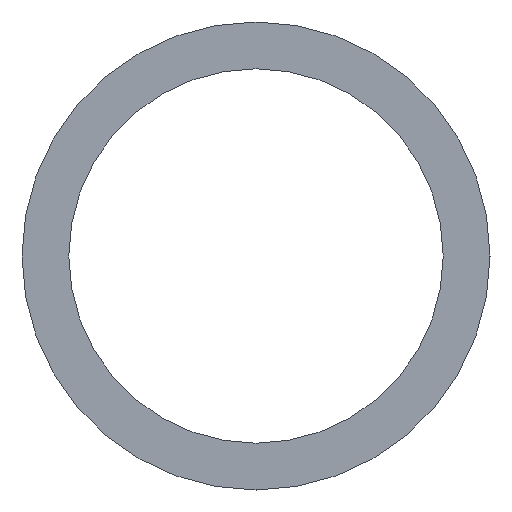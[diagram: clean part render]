
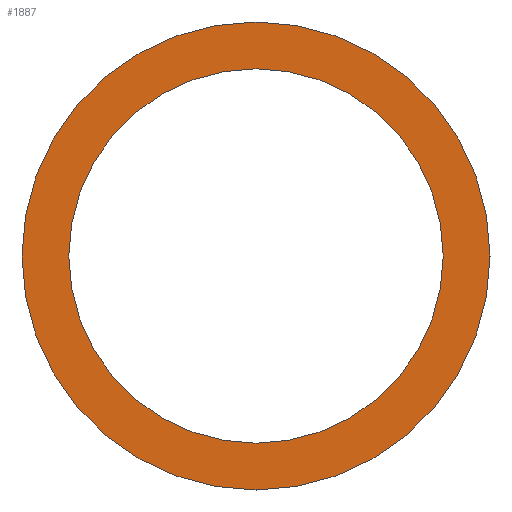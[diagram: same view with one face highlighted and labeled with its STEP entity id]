
A CAD part, front view. The second image highlights one B-rep face of the part: STEP entity #1887.
In plain terms, the highlighted planar face has unit normal (0, -1, 0).
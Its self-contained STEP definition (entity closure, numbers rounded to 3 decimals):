
#84 = AXIS2_PLACEMENT_3D ( 'NONE', #4474, #3580, #7204 ) ;
#112 = VERTEX_POINT ( 'NONE', #6012 ) ;
#1664 = DIRECTION ( 'NONE',  ( 0., 0., -1. ) ) ;
#1887 = ADVANCED_FACE ( 'NONE', ( #8138, #5914 ), #3932, .F. ) ;
#1971 = DIRECTION ( 'NONE',  ( 0., 1., 0. ) ) ;
#2016 = CARTESIAN_POINT ( 'NONE',  ( 0., -50.5, 0. ) ) ;
#2141 = DIRECTION ( 'NONE',  ( 0., 0., -1. ) ) ;
#2707 = VERTEX_POINT ( 'NONE', #3589 ) ;
#3413 = DIRECTION ( 'NONE',  ( 0., -1., 0. ) ) ;
#3580 = DIRECTION ( 'NONE',  ( 0., -1., 0. ) ) ;
#3589 = CARTESIAN_POINT ( 'NONE',  ( 0., -50.5, -170. ) ) ;
#3932 = PLANE ( 'NONE',  #7570 ) ;
#4014 = VERTEX_POINT ( 'NONE', #7848 ) ;
#4015 = EDGE_LOOP ( 'NONE', ( #7064, #6074 ) ) ;
#4047 = CIRCLE ( 'NONE', #8606, 212.5 ) ;
#4435 = VERTEX_POINT ( 'NONE', #7069 ) ;
#4474 = CARTESIAN_POINT ( 'NONE',  ( 0., -50.5, 0. ) ) ;
#5068 = CIRCLE ( 'NONE', #8201, 170. ) ;
#5093 = CIRCLE ( 'NONE', #8589, 170. ) ;
#5181 = DIRECTION ( 'NONE',  ( 0., -1., 0. ) ) ;
#5500 = EDGE_CURVE ( 'NONE', #112, #2707, #5093, .T. ) ;
#5722 = EDGE_CURVE ( 'NONE', #4014, #4435, #6289, .T. ) ;
#5813 = ORIENTED_EDGE ( 'NONE', *, *, #7313, .T. ) ;
#5914 = FACE_OUTER_BOUND ( 'NONE', #6553, .T. ) ;
#6012 = CARTESIAN_POINT ( 'NONE',  ( 0., -50.5, 170. ) ) ;
#6074 = ORIENTED_EDGE ( 'NONE', *, *, #5500, .F. ) ;
#6289 = CIRCLE ( 'NONE', #84, 212.5 ) ;
#6315 = DIRECTION ( 'NONE',  ( 0., -1., 0. ) ) ;
#6553 = EDGE_LOOP ( 'NONE', ( #8017, #5813 ) ) ;
#6643 = EDGE_CURVE ( 'NONE', #2707, #112, #5068, .T. ) ;
#7064 = ORIENTED_EDGE ( 'NONE', *, *, #6643, .F. ) ;
#7069 = CARTESIAN_POINT ( 'NONE',  ( 0., -50.5, 212.5 ) ) ;
#7204 = DIRECTION ( 'NONE',  ( 0., 0., -1. ) ) ;
#7313 = EDGE_CURVE ( 'NONE', #4435, #4014, #4047, .T. ) ;
#7424 = CARTESIAN_POINT ( 'NONE',  ( 0., -50.5, 170. ) ) ;
#7570 = AXIS2_PLACEMENT_3D ( 'NONE', #7424, #1971, #8913 ) ;
#7848 = CARTESIAN_POINT ( 'NONE',  ( 0., -50.5, -212.5 ) ) ;
#8017 = ORIENTED_EDGE ( 'NONE', *, *, #5722, .T. ) ;
#8138 = FACE_BOUND ( 'NONE', #4015, .T. ) ;
#8201 = AXIS2_PLACEMENT_3D ( 'NONE', #8464, #6315, #2141 ) ;
#8464 = CARTESIAN_POINT ( 'NONE',  ( 0., -50.5, 0. ) ) ;
#8589 = AXIS2_PLACEMENT_3D ( 'NONE', #2016, #3413, #8902 ) ;
#8606 = AXIS2_PLACEMENT_3D ( 'NONE', #8670, #5181, #1664 ) ;
#8670 = CARTESIAN_POINT ( 'NONE',  ( 0., -50.5, 0. ) ) ;
#8902 = DIRECTION ( 'NONE',  ( 0., 0., -1. ) ) ;
#8913 = DIRECTION ( 'NONE',  ( 0., 0., 1. ) ) ;
